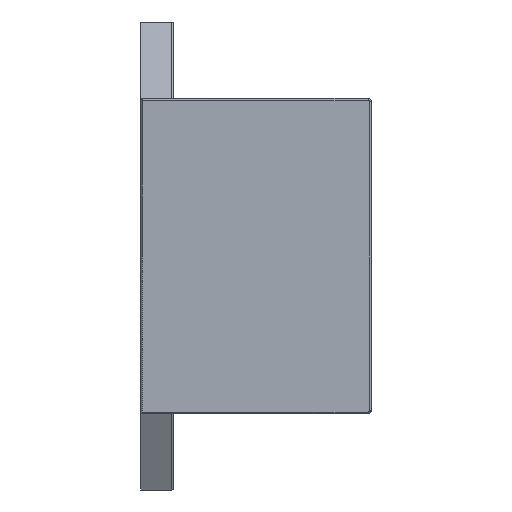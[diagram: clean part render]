
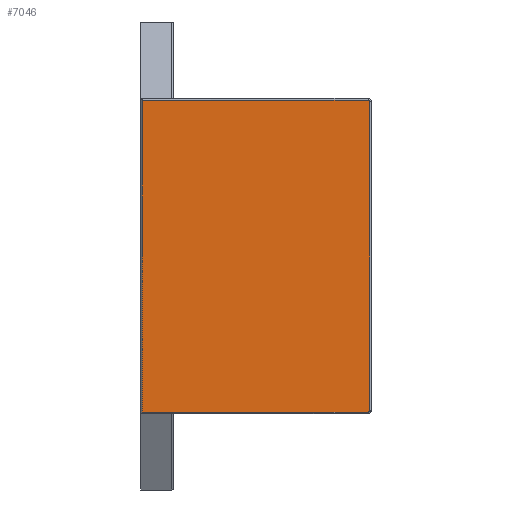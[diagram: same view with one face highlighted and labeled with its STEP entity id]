
A CAD part, left-side view. The second image highlights one B-rep face of the part: STEP entity #7046.
In plain terms, the highlighted planar face has unit normal (-1, 0, 0).
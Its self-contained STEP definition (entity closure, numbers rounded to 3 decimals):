
#2509=CARTESIAN_POINT('',(-38.,6.5,116.75));
#2520=CARTESIAN_POINT('',(-38.,6.5,22.15));
#2670=DIRECTION('',(0.,1.,0.));
#2671=VECTOR('',#2670,68.5);
#2672=CARTESIAN_POINT('',(-38.,-62.,22.15));
#2673=LINE('',#2672,#2671);
#2674=DIRECTION('',(0.,0.,1.));
#2675=VECTOR('',#2674,94.6);
#2676=CARTESIAN_POINT('',(-38.,6.5,22.15));
#2677=LINE('',#2676,#2675);
#2678=DIRECTION('',(0.,-1.,0.));
#2679=VECTOR('',#2678,68.5);
#2680=CARTESIAN_POINT('',(-38.,6.5,116.75));
#2681=LINE('',#2680,#2679);
#2682=CARTESIAN_POINT('',(-38.,-62.,116.25));
#2683=DIRECTION('',(1.,0.,0.));
#2684=DIRECTION('',(0.,0.,1.));
#2685=AXIS2_PLACEMENT_3D('',#2682,#2683,#2684);
#2687=DIRECTION('',(0.,0.,-1.));
#2688=VECTOR('',#2687,93.6);
#2689=CARTESIAN_POINT('',(-38.,-62.5,116.25));
#2690=LINE('',#2689,#2688);
#2691=CARTESIAN_POINT('',(-38.,-62.,22.65));
#2692=DIRECTION('',(1.,0.,0.));
#2693=DIRECTION('',(0.,-1.,0.));
#2694=AXIS2_PLACEMENT_3D('',#2691,#2692,#2693);
#3193=VERTEX_POINT('',#2520);
#3194=CARTESIAN_POINT('',(-38.,-62.,22.15));
#3195=VERTEX_POINT('',#3194);
#3200=CARTESIAN_POINT('',(-38.,-62.5,22.65));
#3201=VERTEX_POINT('',#3200);
#3204=CARTESIAN_POINT('',(-38.,-62.5,116.25));
#3205=VERTEX_POINT('',#3204);
#3208=CARTESIAN_POINT('',(-38.,-62.,116.75));
#3209=VERTEX_POINT('',#3208);
#3210=VERTEX_POINT('',#2509);
#7032=CARTESIAN_POINT('',(-38.,-3.,117.25));
#7033=DIRECTION('',(-1.,0.,0.));
#7034=DIRECTION('',(0.,0.,-1.));
#7035=AXIS2_PLACEMENT_3D('',#7032,#7033,#7034);
#7036=PLANE('',#7035);
#7037=ORIENTED_EDGE('',*,*,#6794,.T.);
#7038=ORIENTED_EDGE('',*,*,#6810,.T.);
#7039=ORIENTED_EDGE('',*,*,#6827,.T.);
#7040=ORIENTED_EDGE('',*,*,#6841,.T.);
#7042=ORIENTED_EDGE('',*,*,#7041,.T.);
#7043=ORIENTED_EDGE('',*,*,#7025,.T.);
#7044=EDGE_LOOP('',(#7037,#7038,#7039,#7040,#7042,#7043));
#7045=FACE_OUTER_BOUND('',#7044,.F.);
#7046=ADVANCED_FACE('',(#7045),#7036,.T.);
#2686=CIRCLE('',#2685,0.5);
#2695=CIRCLE('',#2694,0.5);
#6794=EDGE_CURVE('',#3195,#3193,#2673,.T.);
#6810=EDGE_CURVE('',#3193,#3210,#2677,.T.);
#6827=EDGE_CURVE('',#3210,#3209,#2681,.T.);
#6841=EDGE_CURVE('',#3209,#3205,#2686,.T.);
#7025=EDGE_CURVE('',#3201,#3195,#2695,.T.);
#7041=EDGE_CURVE('',#3205,#3201,#2690,.T.);
